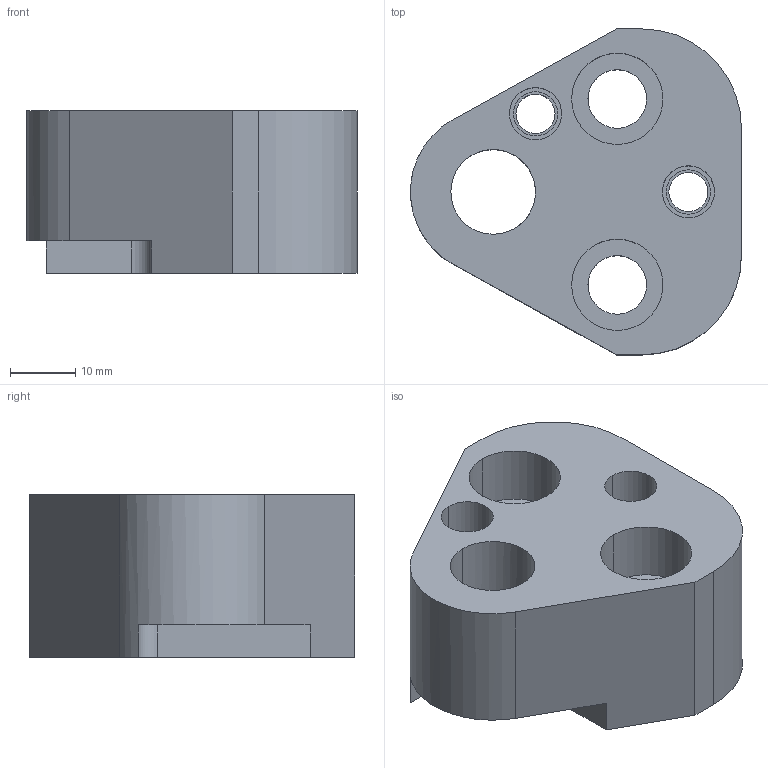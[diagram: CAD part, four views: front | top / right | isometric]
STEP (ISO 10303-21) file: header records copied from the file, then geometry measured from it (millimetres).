
FILE_DESCRIPTION(/* description */ (''),/* implementation_level */ '2;1');
FILE_NAME(/* name */ '3d_25crn-f13_03138_r00.stp',/* time_stamp */ '2011-01-10T14:17:54+09:00',/* author */ ('MISUMI'),/* organization */ (''),/* preprocessor_version */ 'ST-DEVELOPER v11',/* originating_system */ 'UGS - NX 5.0',/* authorisation */ '');
FILE_SCHEMA (('CONFIG_CONTROL_DESIGN'));
Length unit declared in the file: millimetre
Products named in the file (1): 3d_25crn-f13_03138_r00
Bounding box: 50.77 x 50 x 25 mm (x, y, z)
Volume: 35295.2 mm3; surface area: 10741.9 mm2
Topology: 1 solids, 1 shells, 44 faces, 110 edges, 73 vertices
Faces by surface type: cylinder 26, plane 16, cone 2
Entity records: 1451 total; most frequent: DIRECTION 255, CARTESIAN_POINT 233, ORIENTED_EDGE 220, EDGE_CURVE 110, AXIS2_PLACEMENT_3D 101, VERTEX_POINT 73, EDGE_LOOP 59, CIRCLE 56
